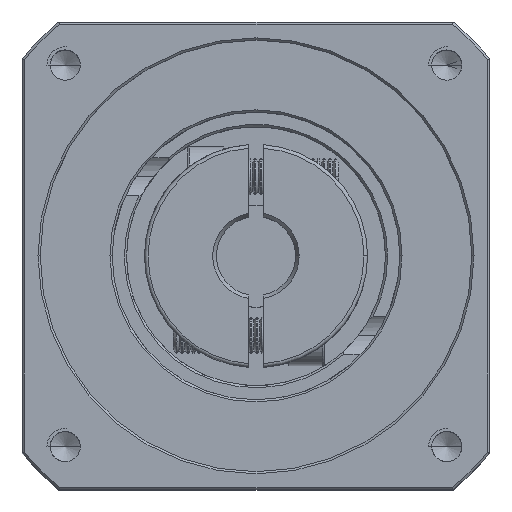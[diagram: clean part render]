
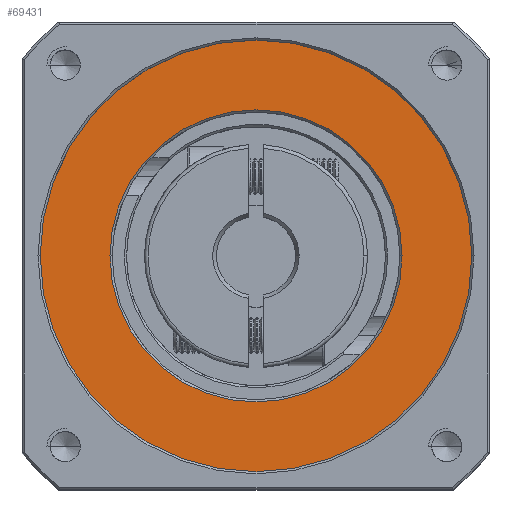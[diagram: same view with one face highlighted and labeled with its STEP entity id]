
A CAD part, top view. The second image highlights one B-rep face of the part: STEP entity #69431.
In plain terms, the highlighted planar face has unit normal (0, 0, 1).
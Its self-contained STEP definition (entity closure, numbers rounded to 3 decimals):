
#4689 = CARTESIAN_POINT ( 'NONE',  ( -70.41, 31.886, 11.125 ) ) ;
#4895 = CIRCLE ( 'NONE', #47941, 30. ) ;
#6940 = DIRECTION ( 'NONE',  ( 0., 0., 1. ) ) ;
#8459 = VERTEX_POINT ( 'NONE', #88370 ) ;
#12612 = DIRECTION ( 'NONE',  ( 1., 0., 0. ) ) ;
#15008 = AXIS2_PLACEMENT_3D ( 'NONE', #4689, #59684, #12612 ) ;
#20142 = CIRCLE ( 'NONE', #89171, 20.3 ) ;
#22336 = EDGE_CURVE ( 'NONE', #49035, #82255, #78212, .T. ) ;
#23105 = ORIENTED_EDGE ( 'NONE', *, *, #56523, .T. ) ;
#27437 = CARTESIAN_POINT ( 'NONE',  ( -70.41, 31.886, 11.125 ) ) ;
#32734 = AXIS2_PLACEMENT_3D ( 'NONE', #34880, #89827, #42795 ) ;
#33328 = CIRCLE ( 'NONE', #32734, 30. ) ;
#34880 = CARTESIAN_POINT ( 'NONE',  ( -70.41, 31.886, 11.125 ) ) ;
#35315 = DIRECTION ( 'NONE',  ( 1., 0., 0. ) ) ;
#37393 = FACE_OUTER_BOUND ( 'NONE', #50518, .T. ) ;
#42795 = DIRECTION ( 'NONE',  ( 1., 0., 0. ) ) ;
#44143 = DIRECTION ( 'NONE',  ( 0., 0., -1. ) ) ;
#47941 = AXIS2_PLACEMENT_3D ( 'NONE', #53999, #6940, #61936 ) ;
#49035 = VERTEX_POINT ( 'NONE', #67056 ) ;
#50518 = EDGE_LOOP ( 'NONE', ( #57453, #87404 ) ) ;
#53999 = CARTESIAN_POINT ( 'NONE',  ( -70.41, 31.886, 11.125 ) ) ;
#55386 = VERTEX_POINT ( 'NONE', #95060 ) ;
#56523 = EDGE_CURVE ( 'NONE', #82255, #49035, #20142, .T. ) ;
#57453 = ORIENTED_EDGE ( 'NONE', *, *, #59404, .T. ) ;
#58721 = EDGE_CURVE ( 'NONE', #55386, #8459, #33328, .T. ) ;
#59404 = EDGE_CURVE ( 'NONE', #8459, #55386, #4895, .T. ) ;
#59684 = DIRECTION ( 'NONE',  ( 0., 0., 1. ) ) ;
#61439 = ORIENTED_EDGE ( 'NONE', *, *, #22336, .T. ) ;
#61936 = DIRECTION ( 'NONE',  ( 1., 0., 0. ) ) ;
#67056 = CARTESIAN_POINT ( 'NONE',  ( -50.11, 31.886, 11.125 ) ) ;
#69431 = ADVANCED_FACE ( 'NONE', ( #97587, #37393 ), #98432, .T. ) ;
#78212 = CIRCLE ( 'NONE', #90265, 20.3 ) ;
#82255 = VERTEX_POINT ( 'NONE', #94947 ) ;
#82394 = DIRECTION ( 'NONE',  ( 0., 0., -1. ) ) ;
#82979 = EDGE_LOOP ( 'NONE', ( #61439, #23105 ) ) ;
#87404 = ORIENTED_EDGE ( 'NONE', *, *, #58721, .T. ) ;
#88370 = CARTESIAN_POINT ( 'NONE',  ( -40.41, 31.886, 11.125 ) ) ;
#89171 = AXIS2_PLACEMENT_3D ( 'NONE', #27437, #82394, #35315 ) ;
#89827 = DIRECTION ( 'NONE',  ( 0., 0., 1. ) ) ;
#90265 = AXIS2_PLACEMENT_3D ( 'NONE', #91162, #44143, #99118 ) ;
#91162 = CARTESIAN_POINT ( 'NONE',  ( -70.41, 31.886, 11.125 ) ) ;
#94947 = CARTESIAN_POINT ( 'NONE',  ( -90.71, 31.886, 11.125 ) ) ;
#95060 = CARTESIAN_POINT ( 'NONE',  ( -100.41, 31.886, 11.125 ) ) ;
#97587 = FACE_BOUND ( 'NONE', #82979, .T. ) ;
#98432 = PLANE ( 'NONE',  #15008 ) ;
#99118 = DIRECTION ( 'NONE',  ( 1., 0., 0. ) ) ;
